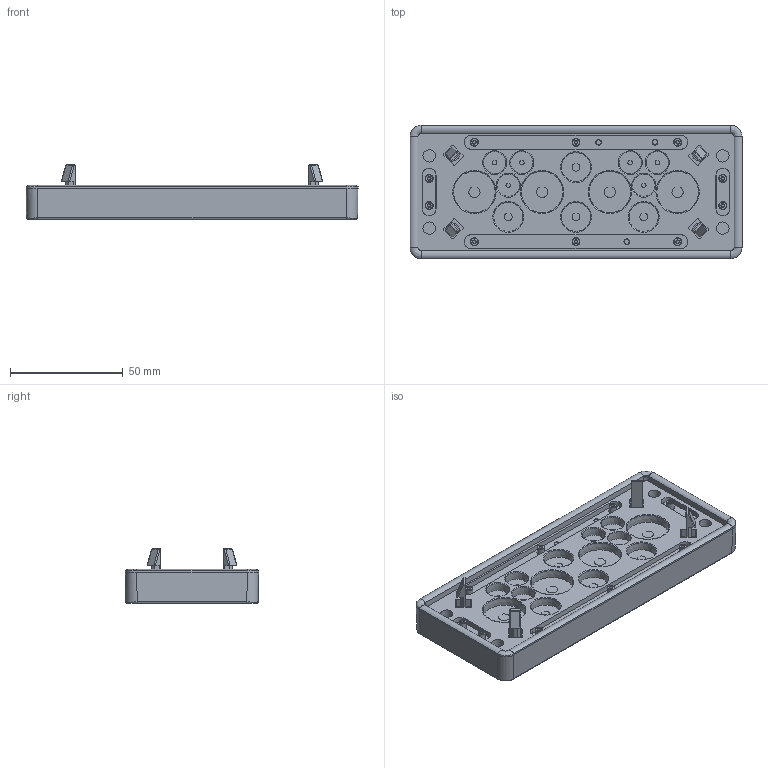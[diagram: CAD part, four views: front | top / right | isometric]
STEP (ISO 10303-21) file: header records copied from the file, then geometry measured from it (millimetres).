
FILE_DESCRIPTION(/* description */ (''),/* implementation_level */ '2;1');
FILE_NAME(/* name */ 'KDP-N_24-14.stp',/* time_stamp */ '2020-09-21T15:17:01+08:00',/* author */ (''),/* organization */ (''),/* preprocessor_version */ 'ST-DEVELOPER v16.7',/* originating_system */ 'SIEMENS PLM Software NX 12.0',/* authorisation */ '');
FILE_SCHEMA (('AP203_CONFIGURATION_CONTROLLED_3D_DESIGN_OF_MECHANICAL_PARTS_AND_ASSEMBLIES_MIM_LF { 1 0 10303 403 2 1 2}'));
Products named in the file (1): 914738881387zlcw
Bounding box: 147 x 59 x 24 mm (x, y, z)
Volume: 73197.7 mm3; surface area: 60893 mm2
Topology: 2 solids, 13 shells, 1796 faces, 4736 edges, 3082 vertices
Faces by surface type: plane 799, extrusion 350, cylinder 266, bspline 186, cone 111, torus 76, sphere 8
Full cylindrical faces by diameter (mm): 2.5 x6, 3.5 x20, 5.5 x8, 7.5 x6, 9 x4, 10 x4
Entity records: 62743 total; most frequent: CARTESIAN_POINT 20838, ORIENTED_EDGE 8978, DIRECTION 7015, EDGE_CURVE 4489, VERTEX_POINT 3002, VECTOR 2641, LINE 2291, EDGE_LOOP 2229
